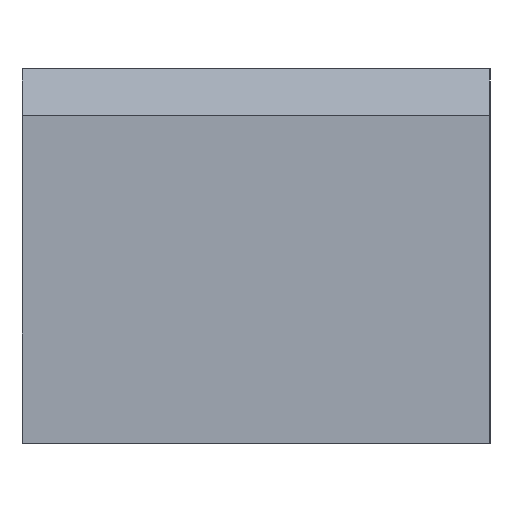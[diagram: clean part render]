
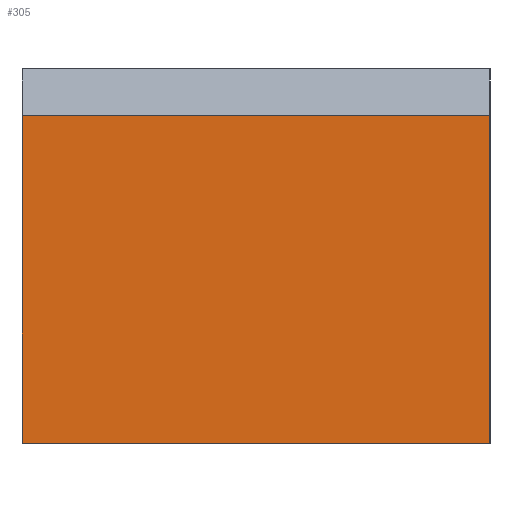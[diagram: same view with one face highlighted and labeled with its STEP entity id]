
A CAD part, left-side view. The second image highlights one B-rep face of the part: STEP entity #305.
In plain terms, the highlighted planar face has unit normal (-1, 0, 0).
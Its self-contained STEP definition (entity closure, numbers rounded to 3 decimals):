
#11 = PLANE ( 'NONE',  #927 ) ;
#52 = CARTESIAN_POINT ( 'NONE',  ( -25., 10., 6. ) ) ;
#83 = VERTEX_POINT ( 'NONE', #514 ) ;
#94 = ORIENTED_EDGE ( 'NONE', *, *, #464, .T. ) ;
#117 = DIRECTION ( 'NONE',  ( 0., -1., 0. ) ) ;
#265 = ORIENTED_EDGE ( 'NONE', *, *, #662, .T. ) ;
#272 = CARTESIAN_POINT ( 'NONE',  ( -25., 10., -8. ) ) ;
#305 = ADVANCED_FACE ( 'NONE', ( #683 ), #11, .F. ) ;
#310 = CARTESIAN_POINT ( 'NONE',  ( -25., -10., 6. ) ) ;
#334 = VECTOR ( 'NONE', #691, 1000. ) ;
#341 = CARTESIAN_POINT ( 'NONE',  ( -25., -10., -8. ) ) ;
#353 = EDGE_CURVE ( 'NONE', #438, #872, #596, .T. ) ;
#356 = EDGE_CURVE ( 'NONE', #816, #83, #813, .T. ) ;
#392 = CARTESIAN_POINT ( 'NONE',  ( -25., 10., 8. ) ) ;
#438 = VERTEX_POINT ( 'NONE', #341 ) ;
#449 = DIRECTION ( 'NONE',  ( 1., 0., 0. ) ) ;
#463 = CARTESIAN_POINT ( 'NONE',  ( -25., 10., 8. ) ) ;
#464 = EDGE_CURVE ( 'NONE', #872, #83, #705, .T. ) ;
#514 = CARTESIAN_POINT ( 'NONE',  ( -25., 10., 6. ) ) ;
#531 = CARTESIAN_POINT ( 'NONE',  ( -25., -10., 8. ) ) ;
#543 = VECTOR ( 'NONE', #591, 1000. ) ;
#573 = VECTOR ( 'NONE', #117, 1000. ) ;
#591 = DIRECTION ( 'NONE',  ( 0., 0., 1. ) ) ;
#596 = LINE ( 'NONE', #531, #543 ) ;
#654 = CARTESIAN_POINT ( 'NONE',  ( -25., 10., -8. ) ) ;
#662 = EDGE_CURVE ( 'NONE', #816, #438, #790, .T. ) ;
#668 = DIRECTION ( 'NONE',  ( 0., 0., -1. ) ) ;
#683 = FACE_OUTER_BOUND ( 'NONE', #700, .T. ) ;
#691 = DIRECTION ( 'NONE',  ( 0., 1., 0. ) ) ;
#700 = EDGE_LOOP ( 'NONE', ( #917, #94, #815, #265 ) ) ;
#705 = LINE ( 'NONE', #52, #334 ) ;
#746 = DIRECTION ( 'NONE',  ( 0., 0., 1. ) ) ;
#790 = LINE ( 'NONE', #272, #573 ) ;
#808 = VECTOR ( 'NONE', #746, 1000. ) ;
#813 = LINE ( 'NONE', #392, #808 ) ;
#815 = ORIENTED_EDGE ( 'NONE', *, *, #356, .F. ) ;
#816 = VERTEX_POINT ( 'NONE', #654 ) ;
#872 = VERTEX_POINT ( 'NONE', #310 ) ;
#917 = ORIENTED_EDGE ( 'NONE', *, *, #353, .T. ) ;
#927 = AXIS2_PLACEMENT_3D ( 'NONE', #463, #449, #668 ) ;
